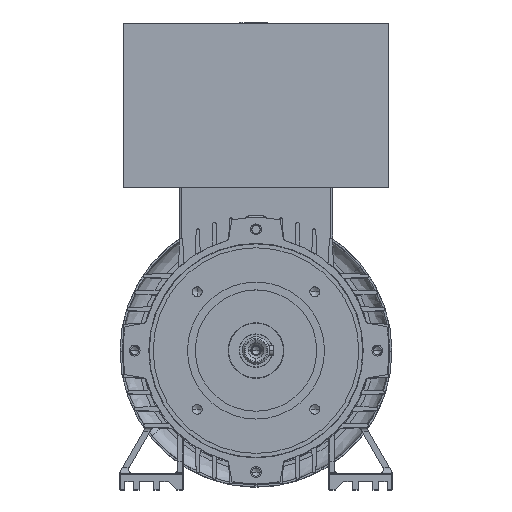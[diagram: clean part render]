
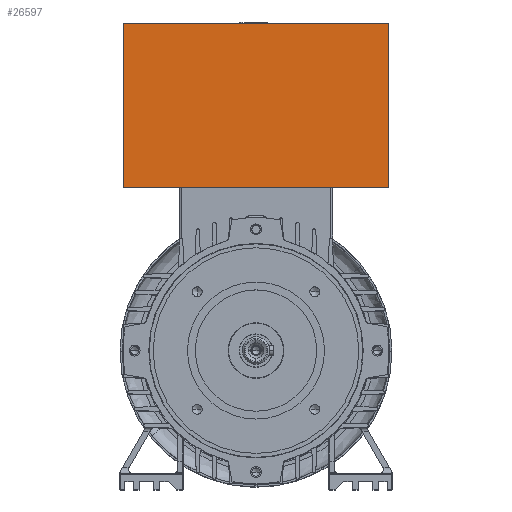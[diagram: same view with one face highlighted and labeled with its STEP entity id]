
A CAD part, top view. The second image highlights one B-rep face of the part: STEP entity #26597.
In plain terms, the highlighted planar face has unit normal (0, 0, 1).
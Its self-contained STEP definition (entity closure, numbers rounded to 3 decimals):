
#1144 = VERTEX_POINT ( 'NONE', #24804 ) ;
#1576 = DIRECTION ( 'NONE',  ( 0., -1., 0. ) ) ;
#1626 = LINE ( 'NONE', #13315, #27431 ) ;
#3212 = EDGE_CURVE ( 'NONE', #1144, #4257, #8330, .T. ) ;
#3312 = LINE ( 'NONE', #16096, #27261 ) ;
#4257 = VERTEX_POINT ( 'NONE', #25841 ) ;
#4447 = ORIENTED_EDGE ( 'NONE', *, *, #26365, .F. ) ;
#5660 = CARTESIAN_POINT ( 'NONE',  ( -67.5, -107.419, 67.5 ) ) ;
#5858 = LINE ( 'NONE', #19598, #30129 ) ;
#7916 = DIRECTION ( 'NONE',  ( 0., 0., 1. ) ) ;
#8330 = LINE ( 'NONE', #10996, #27498 ) ;
#9075 = DIRECTION ( 'NONE',  ( 0., -1., 0. ) ) ;
#10996 = CARTESIAN_POINT ( 'NONE',  ( -67.5, 83.5, 67.5 ) ) ;
#11079 = ORIENTED_EDGE ( 'NONE', *, *, #28178, .F. ) ;
#11125 = ORIENTED_EDGE ( 'NONE', *, *, #22483, .T. ) ;
#11998 = EDGE_LOOP ( 'NONE', ( #11125, #17634, #4447, #11079 ) ) ;
#12144 = PLANE ( 'NONE',  #22678 ) ;
#12197 = VERTEX_POINT ( 'NONE', #20922 ) ;
#13315 = CARTESIAN_POINT ( 'NONE',  ( -67.5, -107.419, 67.5 ) ) ;
#14840 = DIRECTION ( 'NONE',  ( 1., 0., 0. ) ) ;
#16096 = CARTESIAN_POINT ( 'NONE',  ( 67.5, -107.419, 67.5 ) ) ;
#17634 = ORIENTED_EDGE ( 'NONE', *, *, #3212, .T. ) ;
#17795 = DIRECTION ( 'NONE',  ( 1., 0., 0. ) ) ;
#19598 = CARTESIAN_POINT ( 'NONE',  ( -67.5, 167., 67.5 ) ) ;
#20170 = DIRECTION ( 'NONE',  ( 1., 0., 0. ) ) ;
#20922 = CARTESIAN_POINT ( 'NONE',  ( 67.5, 167., 67.5 ) ) ;
#22483 = EDGE_CURVE ( 'NONE', #23652, #1144, #1626, .T. ) ;
#22678 = AXIS2_PLACEMENT_3D ( 'NONE', #5660, #7916, #17795 ) ;
#23375 = CARTESIAN_POINT ( 'NONE',  ( -67.5, 167., 67.5 ) ) ;
#23652 = VERTEX_POINT ( 'NONE', #23375 ) ;
#24804 = CARTESIAN_POINT ( 'NONE',  ( -67.5, 83.5, 67.5 ) ) ;
#25841 = CARTESIAN_POINT ( 'NONE',  ( 67.5, 83.5, 67.5 ) ) ;
#26365 = EDGE_CURVE ( 'NONE', #12197, #4257, #3312, .T. ) ;
#26597 = ADVANCED_FACE ( 'NONE', ( #29790 ), #12144, .T. ) ;
#27261 = VECTOR ( 'NONE', #9075, 1000. ) ;
#27431 = VECTOR ( 'NONE', #1576, 1000. ) ;
#27498 = VECTOR ( 'NONE', #20170, 1000. ) ;
#28178 = EDGE_CURVE ( 'NONE', #23652, #12197, #5858, .T. ) ;
#29790 = FACE_OUTER_BOUND ( 'NONE', #11998, .T. ) ;
#30129 = VECTOR ( 'NONE', #14840, 1000. ) ;
